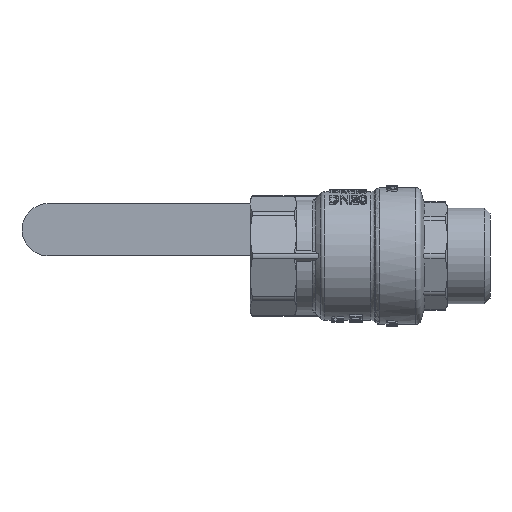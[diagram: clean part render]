
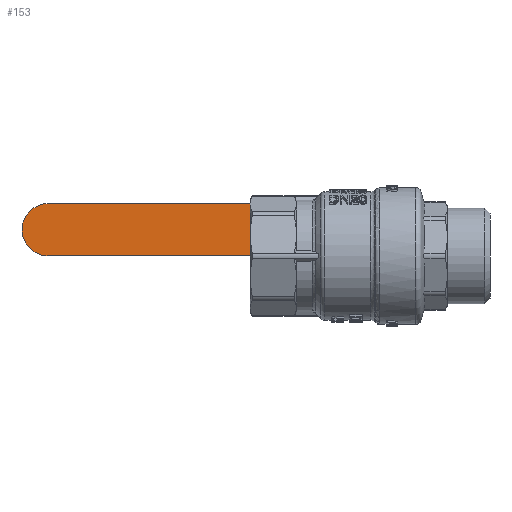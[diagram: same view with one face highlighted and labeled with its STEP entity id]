
A CAD part, front view. The second image highlights one B-rep face of the part: STEP entity #153.
In plain terms, the highlighted planar face has unit normal (0, -1, 0).
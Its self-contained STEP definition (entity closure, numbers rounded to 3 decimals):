
#153=ADVANCED_FACE('',(#2431),#2433,.F.);
#2431=FACE_BOUND('',#2432,.T.);
#2432=EDGE_LOOP('',(#13018,#13019,#13020,#13021));
#2433=PLANE('',#2434);
#2434=AXIS2_PLACEMENT_3D('',#2435,#2436,#2437);
#2435=CARTESIAN_POINT('',(3.975,43.427,0.));
#2436=DIRECTION('',(0.,1.,0.));
#2437=DIRECTION('',(-1.,0.,0.));
#13018=ORIENTED_EDGE('',*,*,#21387,.F.);
#13019=ORIENTED_EDGE('',*,*,#21384,.F.);
#13020=ORIENTED_EDGE('',*,*,#21390,.F.);
#13021=ORIENTED_EDGE('',*,*,#21388,.F.);
#21384=EDGE_CURVE('',#25814,#25806,#25824,.T.);
#21387=EDGE_CURVE('',#25806,#25827,#25829,.T.);
#21388=EDGE_CURVE('',#25827,#25830,#25831,.F.);
#21390=EDGE_CURVE('',#25830,#25814,#25833,.T.);
#25806=VERTEX_POINT('',#34243);
#25814=VERTEX_POINT('',#34263);
#25824=LINE('',#34289,#34290);
#25827=VERTEX_POINT('',#34297);
#25829=LINE('',#34301,#34302);
#25830=VERTEX_POINT('',#34304);
#25831=CIRCLE('',#34305,7.25);
#25833=LINE('',#34312,#34313);
#34243=CARTESIAN_POINT('',(-28.698,43.427,0.));
#34263=CARTESIAN_POINT('',(-28.698,43.427,14.5));
#34289=CARTESIAN_POINT('',(-28.698,43.427,14.5));
#34290=VECTOR('',#34291,1.);
#34291=DIRECTION('',(0.,0.,-1.));
#34297=CARTESIAN_POINT('',(-84.768,43.427,0.));
#34301=CARTESIAN_POINT('',(-28.698,43.427,0.));
#34302=VECTOR('',#34303,1.);
#34303=DIRECTION('',(-1.,0.,0.));
#34304=CARTESIAN_POINT('',(-84.768,43.427,14.5));
#34305=AXIS2_PLACEMENT_3D('',#34306,#34307,#34308);
#34306=CARTESIAN_POINT('',(-84.768,43.427,7.25));
#34307=DIRECTION('',(0.,-1.,0.));
#34308=DIRECTION('',(0.,0.,1.));
#34312=CARTESIAN_POINT('',(-84.768,43.427,14.5));
#34313=VECTOR('',#34314,1.);
#34314=DIRECTION('',(1.,0.,0.));
